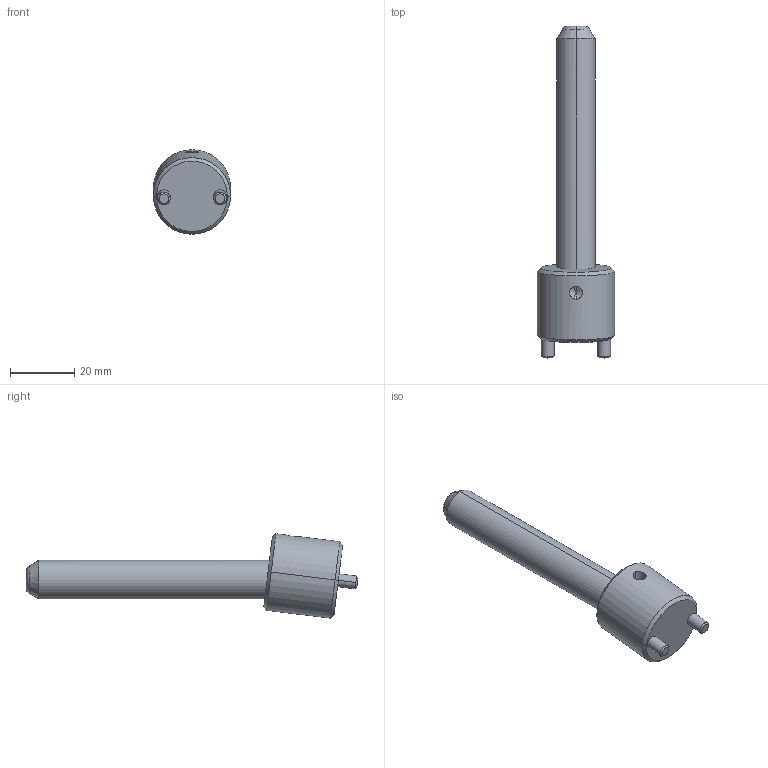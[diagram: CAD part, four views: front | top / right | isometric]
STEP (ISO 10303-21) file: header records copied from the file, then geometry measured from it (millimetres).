
FILE_DESCRIPTION(('CATIA V5 STEP Exchange'),'2;1');
FILE_NAME('C:\Users\Raffaele\Desktop\3D BOLEX\3D FILES CF BOLEX\19-INCLINED ASSEMBLY REF_CI\CI0712075.stp','2019-06-20T14:16:22+00:00',('none'),('none'),'CATIA Version 5 Release 20 GA (IN-10)','CATIA V5 STEP AP203','none');
FILE_SCHEMA(('CONFIG_CONTROL_DESIGN'));
Length unit declared in the file: millimetre
Products named in the file (1): CI0712075
Assembly tree (2 placements, depth 2):
  CI0712075
    #58
    #578
Bounding box: 24 x 103.28 x 26.26 mm (x, y, z)
Volume: 18186.7 mm3; surface area: 7035.4 mm2
Topology: 2 solids, 2 shells, 39 faces, 82 edges, 47 vertices
Faces by surface type: cone 14, cylinder 14, plane 7, torus 4
Entity records: 1458 total; most frequent: CARTESIAN_POINT 599, ORIENTED_EDGE 160, DIRECTION 145, EDGE_CURVE 80, AXIS2_PLACEMENT_3D 72, VERTEX_POINT 47, EDGE_LOOP 43, ADVANCED_FACE 39
